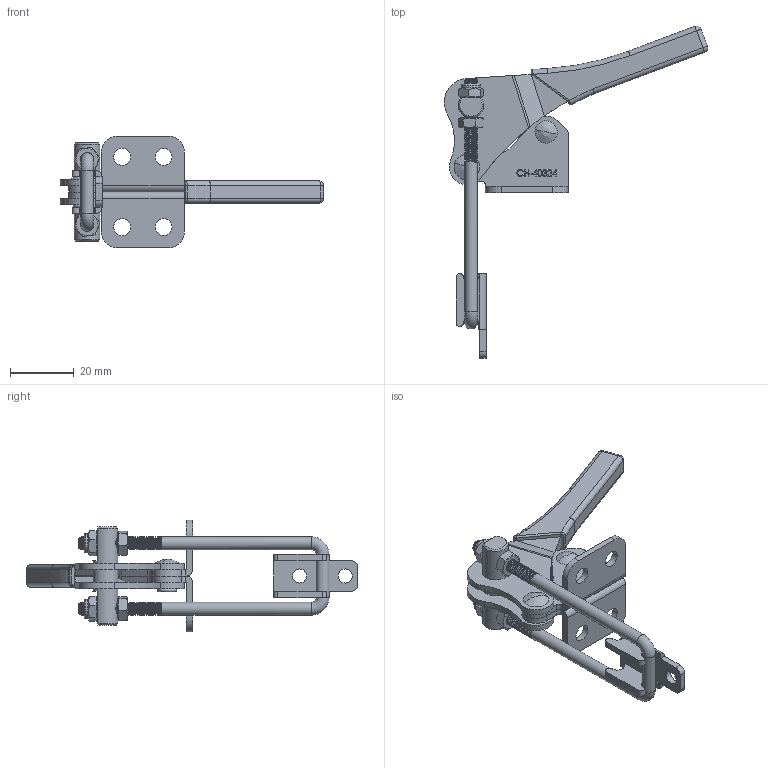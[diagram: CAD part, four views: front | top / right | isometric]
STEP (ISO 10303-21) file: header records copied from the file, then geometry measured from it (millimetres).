
FILE_DESCRIPTION(/* description */ ('STEP AP203'),/* implementation_level */ '2;1');
FILE_NAME(/* name */ 'D:\Vault_2016\Projekty\Clamptek\STRONA\Latch type clamp\CH-40324\CH-40324.stp',/* time_stamp */ '2019-01-11T16:30:11+01:00',/* author */ ('Łukasz'),/* organization */ ('Î¢ÈíÖÐ¹ú'),/* preprocessor_version */ 'ST-DEVELOPER v17.2',/* originating_system */ 'Autodesk Inventor 2019',/* authorisation */ '');
FILE_SCHEMA (('AUTOMOTIVE_DESIGN { 1 0 10303 214 3 1 1 }'));
Products named in the file (10): CH-40324; 40324-01_Ä¬ÈÏ; 40324-06_Ä¬ÈÏ; 40324-05_Ä¬ÈÏ; 40324-03_Ä¬ÈÏ; 40324-02_Ä¬ÈÏ; 40324-04_Ä¬ÈÏ; M4·ÀËÉÂÝÄ¸_Ä¬È
Ï; 40324-07_Ä¬ÈÏ; M4_Ä¬ÈÏ
Assembly tree (11 placements, depth 2):
  CH-40324
    M4_Ä¬ÈÏ  x2
    40324-01_Ä¬ÈÏ
    40324-06_Ä¬ÈÏ
    40324-05_Ä¬ÈÏ
    40324-03_Ä¬ÈÏ
    40324-02_Ä¬ÈÏ
    40324-04_Ä¬ÈÏ
    M4·ÀËÉÂÝÄ¸_Ä¬È
Ï  x2
    40324-07_Ä¬ÈÏ
Bounding box: 82.53 x 104.02 x 35 mm (x, y, z)
Volume: 14393.8 mm3; surface area: 15139.9 mm2
Topology: 12 solids, 12 shells, 680 faces, 1888 edges, 1254 vertices
Faces by surface type: plane 267, bspline 188, cylinder 182, cone 23, torus 16, sphere 4
Full cylindrical faces by diameter (mm): 1.021 x1, 1.098 x1, 3.2 x12, 3.4 x1, 4 x76, 4.2 x1, 4.4 x4, 4.8 x5, 5.3 x4, 6 x2, 8 x3
Entity records: 54459 total; most frequent: CARTESIAN_POINT 39065, ORIENTED_EDGE 3542, DIRECTION 2427, EDGE_CURVE 1771, VERTEX_POINT 1182, LINE 895, VECTOR 895, AXIS2_PLACEMENT_3D 766
